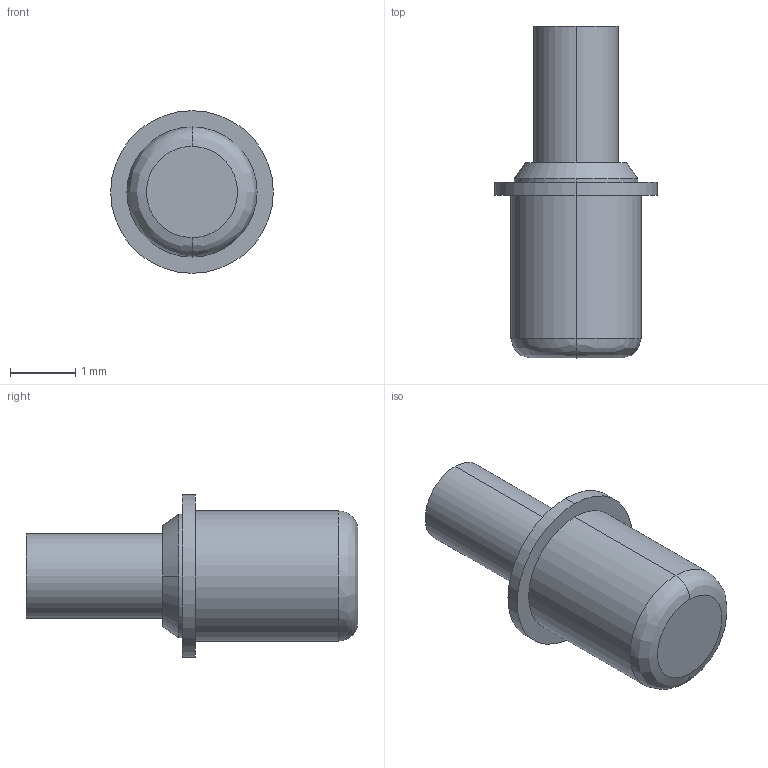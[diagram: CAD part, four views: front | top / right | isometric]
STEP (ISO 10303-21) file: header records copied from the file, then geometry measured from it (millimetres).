
FILE_DESCRIPTION (( 'STEP AP214' ), '1' );
FILE_NAME ('PC3C.STEP', '2021-06-30T15:18:38', ( '' ), ( '' ), 'SwSTEP 2.0', 'SolidWorks 2021', '' );
FILE_SCHEMA (( 'AUTOMOTIVE_DESIGN' ));
Length unit declared in the file: millimetre
Products named in the file (1): PC3C
Bounding box: 2.5 x 5.1 x 2.5 mm (x, y, z)
Volume: 12.2 mm3; surface area: 35.8 mm2
Topology: 1 solids, 1 shells, 17 faces, 34 edges, 22 vertices
Faces by surface type: cylinder 8, plane 5, bspline 2, cone 2
Entity records: 510 total; most frequent: CARTESIAN_POINT 110, DIRECTION 86, ORIENTED_EDGE 68, AXIS2_PLACEMENT_3D 38, EDGE_CURVE 34, CIRCLE 22, VERTEX_POINT 22, EDGE_LOOP 20
